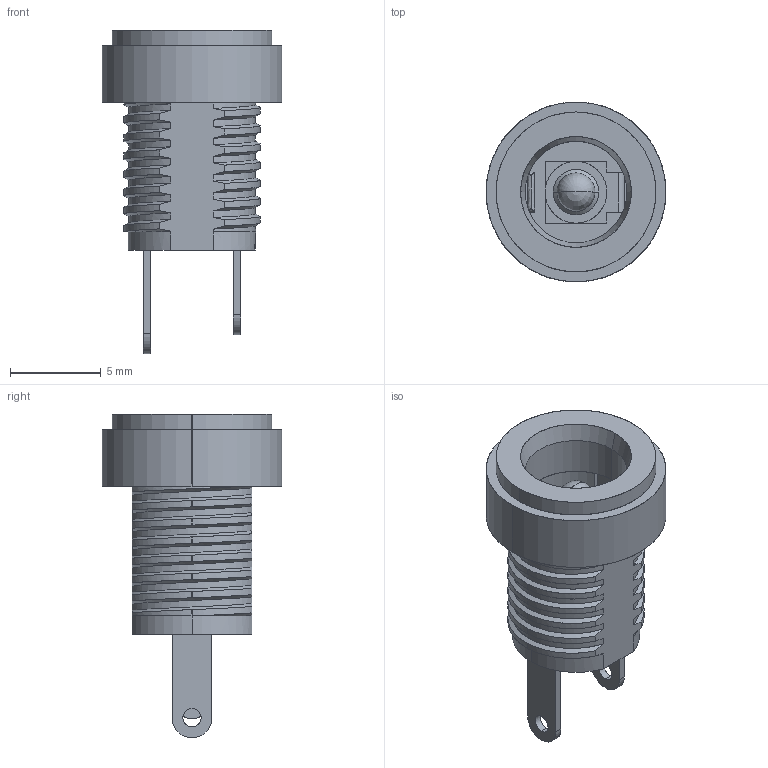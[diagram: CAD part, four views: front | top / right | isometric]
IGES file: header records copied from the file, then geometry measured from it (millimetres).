
Start section: SolidWorks IGES file using analytic representation for surfaces
Global section: file name: C:\Users\Baco\Google Drive\Cad\SolidWork\Jack_2.1_ST.IGS; native system: SolidWorks 2022; preprocessor: SolidWorks 2022; author: Baco; date: 240121.231952; units: millimetre
Bounding box: 9.9 x 9.9 x 17.8 mm (x, y, z)
Surface area: 1044.1 mm2 (no closed solid volume)
Topology: 0 solids, 0 shells, 209 faces, 2190 edges, 2186 vertices
Faces by surface type: bspline 135, revolution 74
